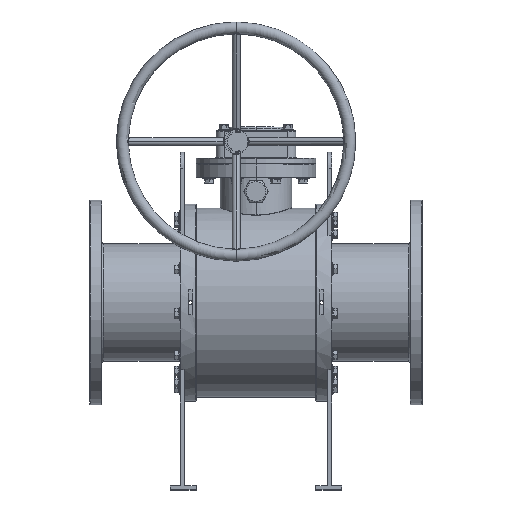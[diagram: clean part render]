
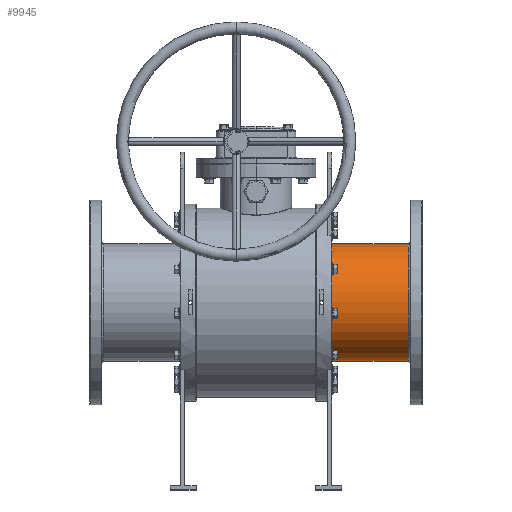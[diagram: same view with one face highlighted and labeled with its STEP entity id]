
A CAD part, top view. The second image highlights one B-rep face of the part: STEP entity #9945.
In plain terms, the highlighted cylindrical face has radius 147 mm (diameter 294 mm), a partial arc.
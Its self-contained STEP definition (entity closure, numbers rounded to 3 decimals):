
#383 = CARTESIAN_POINT ( 'NONE',  ( 382., 0., 0. ) ) ;
#812 = CARTESIAN_POINT ( 'NONE',  ( 382., -147., 0. ) ) ;
#940 = VERTEX_POINT ( 'NONE', #812 ) ;
#992 = CIRCLE ( 'NONE', #15126, 147. ) ;
#1476 = EDGE_CURVE ( 'NONE', #22962, #19672, #992, .T. ) ;
#2023 = ORIENTED_EDGE ( 'NONE', *, *, #5765, .T. ) ;
#2462 = ORIENTED_EDGE ( 'NONE', *, *, #13478, .F. ) ;
#3577 = DIRECTION ( 'NONE',  ( -1., 0., 0. ) ) ;
#4639 = CARTESIAN_POINT ( 'NONE',  ( -419., -147., 0. ) ) ;
#4970 = VECTOR ( 'NONE', #26849, 1000. ) ;
#5375 = FACE_OUTER_BOUND ( 'NONE', #18015, .T. ) ;
#5469 = CARTESIAN_POINT ( 'NONE',  ( 382., 147., 0. ) ) ;
#5765 = EDGE_CURVE ( 'NONE', #940, #23059, #15771, .T. ) ;
#5776 = CYLINDRICAL_SURFACE ( 'NONE', #19668, 147. ) ;
#6692 = LINE ( 'NONE', #15135, #4970 ) ;
#9143 = AXIS2_PLACEMENT_3D ( 'NONE', #383, #25723, #15734 ) ;
#9945 = ADVANCED_FACE ( 'NONE', ( #5375 ), #5776, .T. ) ;
#10737 = CARTESIAN_POINT ( 'NONE',  ( 190., 0., 0. ) ) ;
#11996 = CARTESIAN_POINT ( 'NONE',  ( -419., 0., 0. ) ) ;
#12343 = EDGE_CURVE ( 'NONE', #23059, #22962, #6692, .T. ) ;
#12669 = DIRECTION ( 'NONE',  ( 0., 0., -1. ) ) ;
#13478 = EDGE_CURVE ( 'NONE', #940, #19672, #25963, .T. ) ;
#14728 = VECTOR ( 'NONE', #21527, 1000. ) ;
#15126 = AXIS2_PLACEMENT_3D ( 'NONE', #10737, #25701, #12669 ) ;
#15135 = CARTESIAN_POINT ( 'NONE',  ( -419., 147., 0. ) ) ;
#15426 = CARTESIAN_POINT ( 'NONE',  ( 190., 147., 0. ) ) ;
#15734 = DIRECTION ( 'NONE',  ( 0., 1., 0. ) ) ;
#15771 = CIRCLE ( 'NONE', #9143, 147. ) ;
#18015 = EDGE_LOOP ( 'NONE', ( #2023, #19326, #22345, #2462 ) ) ;
#19326 = ORIENTED_EDGE ( 'NONE', *, *, #12343, .T. ) ;
#19668 = AXIS2_PLACEMENT_3D ( 'NONE', #11996, #3577, #20598 ) ;
#19672 = VERTEX_POINT ( 'NONE', #20027 ) ;
#20027 = CARTESIAN_POINT ( 'NONE',  ( 190., -147., 0. ) ) ;
#20598 = DIRECTION ( 'NONE',  ( 0., -1., 0. ) ) ;
#21527 = DIRECTION ( 'NONE',  ( -1., 0., 0. ) ) ;
#22345 = ORIENTED_EDGE ( 'NONE', *, *, #1476, .T. ) ;
#22962 = VERTEX_POINT ( 'NONE', #15426 ) ;
#23059 = VERTEX_POINT ( 'NONE', #5469 ) ;
#25701 = DIRECTION ( 'NONE',  ( 1., 0., 0. ) ) ;
#25723 = DIRECTION ( 'NONE',  ( -1., 0., 0. ) ) ;
#25963 = LINE ( 'NONE', #4639, #14728 ) ;
#26849 = DIRECTION ( 'NONE',  ( -1., 0., 0. ) ) ;
